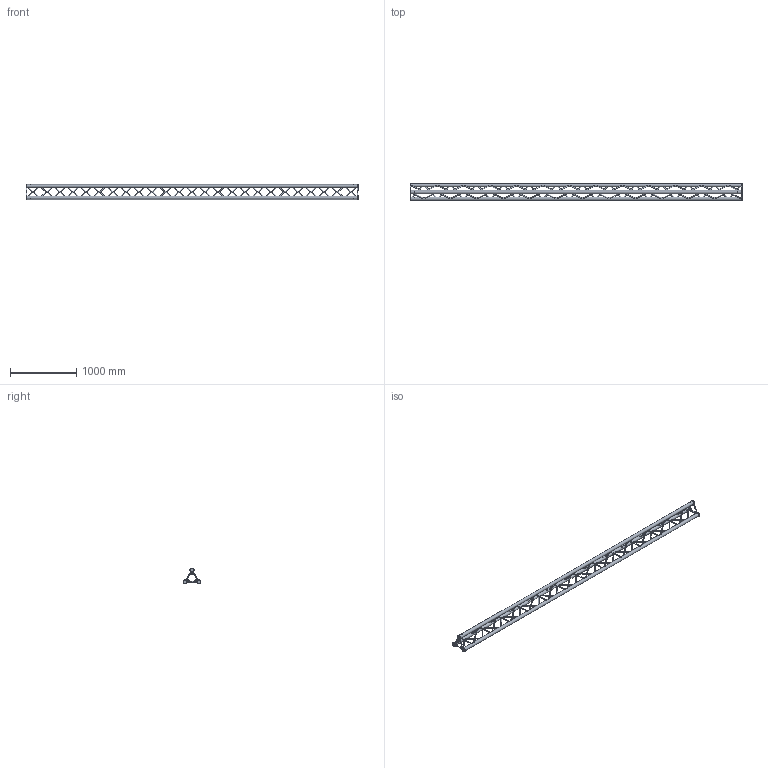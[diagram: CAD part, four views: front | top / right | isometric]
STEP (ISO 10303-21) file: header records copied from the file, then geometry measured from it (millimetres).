
FILE_DESCRIPTION(/* description */ (''),/* implementation_level */ '2;1');
FILE_NAME(/* name */ 'C:\Users\stephan\Desktop\A03\112040018.stp',/* time_stamp */ '2016-01-20T15:35:02+01:00',/* author */ ('Stephan'),/* organization */ (''),/* preprocessor_version */ 'ST-DEVELOPER v15.6',/* originating_system */ 'Autodesk Inventor 2015',/* authorisation */ '');
FILE_SCHEMA (('AUTOMOTIVE_DESIGN { 1 0 10303 214 3 1 1 }'));
Length unit declared in the file: millimetre
Products named in the file (1): 160025659
Bounding box: 5000 x 266.3 x 239.1 mm (x, y, z)
Volume: 32654441.3 mm3; surface area: 3172640 mm2
Topology: 82 solids, 82 shells, 604 faces, 1110 edges, 684 vertices
Faces by surface type: plane 402, cylinder 178, cone 12, torus 12
Full cylindrical faces by diameter (mm): 10.5 x6, 11.5 x12, 12.7 x75, 23.5 x6, 50.8 x3, 51.3 x6, 63.3 x6
Entity records: 16813 total; most frequent: CARTESIAN_POINT 3851, DIRECTION 2496, ORIENTED_EDGE 2208, AXIS2_PLACEMENT_3D 1065, EDGE_CURVE 954, EDGE_LOOP 936, VERTEX_POINT 660, STYLED_ITEM 603
